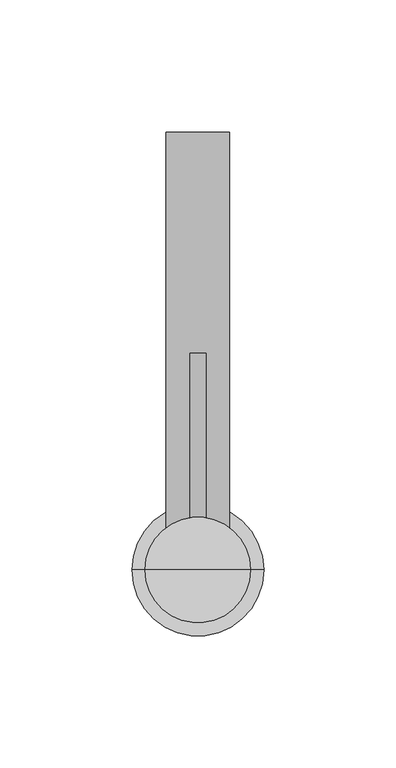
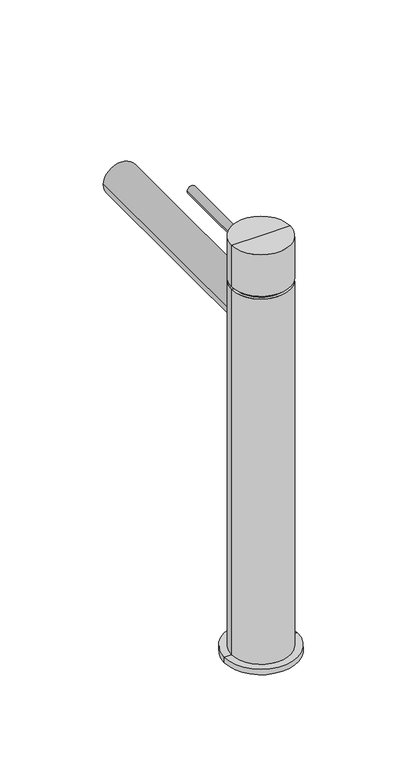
"""IFC4 building model written with IfcOpenShell, lengths in millimetres: flow terminal geometry, monomando lavabo - tubo : monomando lavabo - tubo."""

from ifc_helpers import new_model, si_unit, point, frame, frame_2d, origin, place, context, project, spatial, circle_curve, trimmed, segment, composite_curve, outline, extrude, source, transform, mapped, element, save
from ifc_brep_helpers import plane_surface, cylinder_surface, advanced_brep


def flow_terminal_a7820e30(model_context):
    return source(origin(), model_context, "Body", "SolidModel", [
        extrude(outline(composite_curve([segment(trimmed(circle_curve(frame_2d((990.6419785, 0.0)), 12.0), [point((990.6419785, -12.0))], [point((990.6419785, 12.0))], False, "CARTESIAN"), True, "CONTINUOUS"), segment(trimmed(circle_curve(frame_2d((990.6419785, 0.0)), 12.0), [point((990.6419785, 12.0))], [point((990.6419785, -12.0))], False, "CARTESIAN"), True, "CONTINUOUS")], self_intersect=False)), frame((0.0, 0.0, 0.0), z_axis=(0.0, 1.0, 0.0), x_axis=(0.0, 0.0, 1.0)), (0.0, 0.0, 1.0), 165.7083161),
        extrude(outline(composite_curve([segment(trimmed(circle_curve(frame_2d((1033.2676852, 0.0)), 3.0), [point((1033.2676852, -3.0))], [point((1033.2676852, 3.0))], False, "CARTESIAN"), True, "CONTINUOUS"), segment(trimmed(circle_curve(frame_2d((1033.2676852, 0.0)), 3.0), [point((1033.2676852, 3.0))], [point((1033.2676852, -3.0))], False, "CARTESIAN"), True, "CONTINUOUS")], self_intersect=False)), frame((0.0, 0.0, 0.0), z_axis=(0.0, 1.0, 0.0), x_axis=(0.0, 0.0, 1.0)), (0.0, 0.0, 1.0), 82.0430665),
        advanced_brep(
        [(0.0, 0.0, 750.0), (25.0, 0.0, 750.0), (-25.0, 0.0, 750.0), (20.0, 0.0, 1050.0), (0.0, 0.0, 1050.0), (-20.0, 0.0, 1050.0), (20.0, 0.0, 1020.0), (-20.0, 0.0, 1020.0), (18.0, 0.0, 1020.0), (-18.0, 0.0, 1020.0), (18.0, 0.0, 1018.0), (-18.0, 0.0, 1018.0), (20.0, 0.0, 1018.0), (-20.0, 0.0, 1018.0), (20.0, 0.0, 754.0), (-20.0, 0.0, 754.0), (25.0, 0.0, 754.0), (-25.0, 0.0, 754.0)],
        [
            (0, 1),
            (1, 2, circle_curve(frame((0.0, 0.0, 750.0), z_axis=(0.0, 0.0, -1.0), x_axis=(-1.0, 0.0, 0.0)), 25.0)),
            (2, 0),
            (2, 1, circle_curve(frame((0.0, 0.0, 750.0), z_axis=(0.0, 0.0, -1.0), x_axis=(-1.0, 0.0, 0.0)), 25.0)),
            (3, 4),
            (4, 5),
            (5, 3, circle_curve(frame((0.0, 0.0, 1050.0), z_axis=(0.0, 0.0, 1.0), x_axis=(-1.0, 0.0, 0.0)), 20.0)),
            (3, 5, circle_curve(frame((0.0, 0.0, 1050.0), z_axis=(0.0, 0.0, 1.0), x_axis=(-1.0, 0.0, 0.0)), 20.0)),
            (6, 3),
            (5, 7),
            (7, 6, circle_curve(frame((0.0, 0.0, 1020.0), z_axis=(0.0, 0.0, 1.0), x_axis=(-1.0, 0.0, 0.0)), 20.0)),
            (6, 7, circle_curve(frame((0.0, 0.0, 1020.0), z_axis=(0.0, 0.0, 1.0), x_axis=(-1.0, 0.0, 0.0)), 20.0)),
            (8, 6),
            (7, 9),
            (9, 8, circle_curve(frame((0.0, 0.0, 1020.0), z_axis=(0.0, 0.0, 1.0), x_axis=(-1.0, 0.0, 0.0)), 18.0)),
            (8, 9, circle_curve(frame((0.0, 0.0, 1020.0), z_axis=(0.0, 0.0, 1.0), x_axis=(-1.0, 0.0, 0.0)), 18.0)),
            (10, 8),
            (9, 11),
            (11, 10, circle_curve(frame((0.0, 0.0, 1018.0), z_axis=(0.0, 0.0, 1.0), x_axis=(-1.0, 0.0, 0.0)), 18.0)),
            (10, 11, circle_curve(frame((0.0, 0.0, 1018.0), z_axis=(0.0, 0.0, 1.0), x_axis=(-1.0, 0.0, 0.0)), 18.0)),
            (12, 10),
            (11, 13),
            (13, 12, circle_curve(frame((0.0, 0.0, 1018.0), z_axis=(0.0, 0.0, 1.0), x_axis=(-1.0, 0.0, 0.0)), 20.0)),
            (12, 13, circle_curve(frame((0.0, 0.0, 1018.0), z_axis=(0.0, 0.0, 1.0), x_axis=(-1.0, 0.0, 0.0)), 20.0)),
            (14, 12),
            (13, 15),
            (15, 14, circle_curve(frame((0.0, 0.0, 754.0), z_axis=(0.0, 0.0, 1.0), x_axis=(-1.0, 0.0, 0.0)), 20.0)),
            (14, 15, circle_curve(frame((0.0, 0.0, 754.0), z_axis=(0.0, 0.0, 1.0), x_axis=(-1.0, 0.0, 0.0)), 20.0)),
            (16, 14),
            (15, 17),
            (17, 16, circle_curve(frame((0.0, 0.0, 754.0), z_axis=(0.0, 0.0, 1.0), x_axis=(-1.0, 0.0, 0.0)), 25.0)),
            (16, 17, circle_curve(frame((0.0, 0.0, 754.0), z_axis=(0.0, 0.0, 1.0), x_axis=(-1.0, 0.0, 0.0)), 25.0)),
            (1, 16),
            (17, 2),
        ],
        [
            plane_surface(frame((0.0, 0.0, 750.0), z_axis=(0.0, 0.0, -1.0), x_axis=(-1.0, 0.0, 0.0))),
            plane_surface(frame((0.0, 0.0, 1050.0), z_axis=(0.0, 0.0, 1.0), x_axis=(-1.0, 0.0, 0.0))),
            cylinder_surface(frame((0.0, 0.0, 725.0), z_axis=(0.0, 0.0, -1.0), x_axis=(-1.0, 0.0, 0.0)), 20.0),
            plane_surface(frame((0.0, 0.0, 1020.0), z_axis=(0.0, 0.0, -1.0), x_axis=(-1.0, 0.0, 0.0))),
            cylinder_surface(frame((0.0, 0.0, 725.0), z_axis=(0.0, 0.0, -1.0), x_axis=(-1.0, 0.0, 0.0)), 18.0),
            plane_surface(frame((0.0, 0.0, 1018.0), z_axis=(0.0, 0.0, 1.0), x_axis=(-1.0, 0.0, 0.0))),
            plane_surface(frame((0.0, 0.0, 754.0), z_axis=(0.0, 0.0, 1.0), x_axis=(-1.0, 0.0, 0.0))),
            cylinder_surface(frame((0.0, 0.0, 725.0), z_axis=(0.0, 0.0, -1.0), x_axis=(-1.0, 0.0, 0.0)), 25.0),
        ],
        [
            (0, [[1, 2, 3]]),
            (0, [[-3, 4, -1]]),
            (1, [[5, 6, 7]]),
            (1, [[-6, -5, 8]]),
            (2, [[9, -7, 10, 11]]),
            (2, [[-10, -8, -9, 12]]),
            (3, [[13, -11, 14, 15]]),
            (3, [[-14, -12, -13, 16]]),
            (4, [[17, -15, 18, 19]]),
            (4, [[-18, -16, -17, 20]]),
            (5, [[21, -19, 22, 23]]),
            (5, [[-22, -20, -21, 24]]),
            (2, [[25, -23, 26, 27]]),
            (2, [[-26, -24, -25, 28]]),
            (6, [[29, -27, 30, 31]]),
            (6, [[-30, -28, -29, 32]]),
            (7, [[33, -31, 34, -2]]),
            (7, [[-34, -32, -33, -4]]),
        ],
    ),
    ])


if __name__ == "__main__":
    model = new_model("IFC4")
    model_context = context("Model", 3, world=origin())
    ifc_project = project(units=[si_unit("LENGTHUNIT", "METRE", prefix="MILLI")], contexts=[model_context])
    site = spatial("IfcSite", under=ifc_project)
    building = spatial("IfcBuilding", under=site)
    placement = place(None, origin())
    flow_terminal_shape = flow_terminal_a7820e30(model_context)
    element("IfcFlowTerminal", 1, ObjectType="monomando lavabo - tubo : monomando lavabo - tubo", at=placement, inside=building, context=model_context, shape_type="MappedRepresentation", body=[
        mapped(flow_terminal_shape, transform((0.0, 0.0, 0.0), x_axis=(1.0, 0.0, 0.0), y_axis=(0.0, 1.0, 0.0), z_axis=(0.0, 0.0, 1.0))),
    ])
    save(model, "model.ifc")
